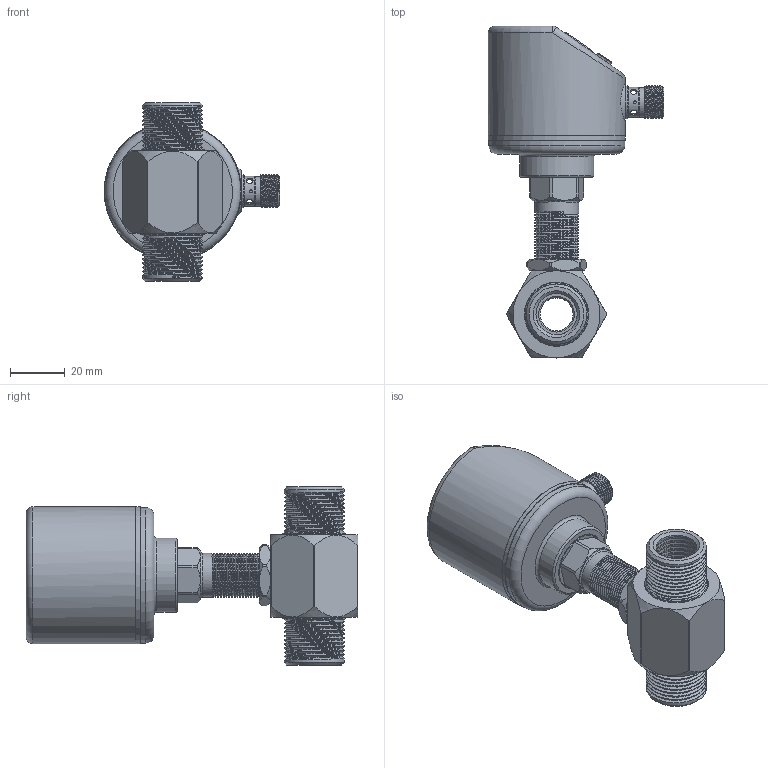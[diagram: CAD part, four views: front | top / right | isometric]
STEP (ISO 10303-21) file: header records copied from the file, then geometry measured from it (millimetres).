
FILE_DESCRIPTION (( 'STEP AP214' ), '1' );
FILE_NAME ('DN12俋杅珆.STEP', '2025-03-05T01:37:19', ( '' ), ( '' ), 'SwSTEP 2.0', 'SolidWorks 2020', '' );
FILE_SCHEMA (( 'AUTOMOTIVE_DESIGN' ));
Length unit declared in the file: millimetre
Products named in the file (11): 滅阨諉芛褲极1; 蚾饜极2; 揤薯珆尨欶; PVC躇猾菜; 偌瑩簽; 揤薯奻裔; 恦謫抻芛5; DN12俋杅珆; 翋极; 蹟譫1; 抻芛俋蹟恇G1-4
Assembly tree (12 placements, depth 3):
  DN12俋杅珆
    揤薯奻裔
    揤薯珆尨欶
    滅阨諉芛褲极1
    偌瑩簽  x3
    PVC躇猾菜
    抻芛俋蹟恇G1-4
    恦謫抻芛5
    蹟譫1
    蚾饜极2
      翋极
Bounding box: 64 x 120.9 x 65 mm (x, y, z)
Volume: 55204.5 mm3; surface area: 44912.7 mm2
Topology: 11 solids, 11 shells, 478 faces, 1147 edges, 748 vertices
Faces by surface type: cylinder 186, plane 174, cone 71, bspline 29, torus 14, sphere 4
Full cylindrical faces by diameter (mm): 1 x4, 1.2 x3, 1.8 x1, 2 x5, 2.5 x7, 2.8 x1, 4.3 x3, 4.5 x6, 7 x15, 7.2 x1, 8.5 x1, 9.75 x1, 10.5 x1, 10.7 x1, 10.8 x1, 10.9 x1, 11 x2, 12 x2, 14 x1, 14.3 x1, 14.4 x1, 14.8 x1, 15 x12, 16 x29, 17 x1, 17.34 x2, 17.4 x1, 21.24 x1, 21.3 x1, 23 x2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
Entity records: 27375 total; most frequent: CARTESIAN_POINT 18515, DIRECTION 1714, ORIENTED_EDGE 1518, EDGE_CURVE 759, AXIS2_PLACEMENT_3D 712, EDGE_LOOP 612, VERTEX_POINT 553, FACE_OUTER_BOUND 474
